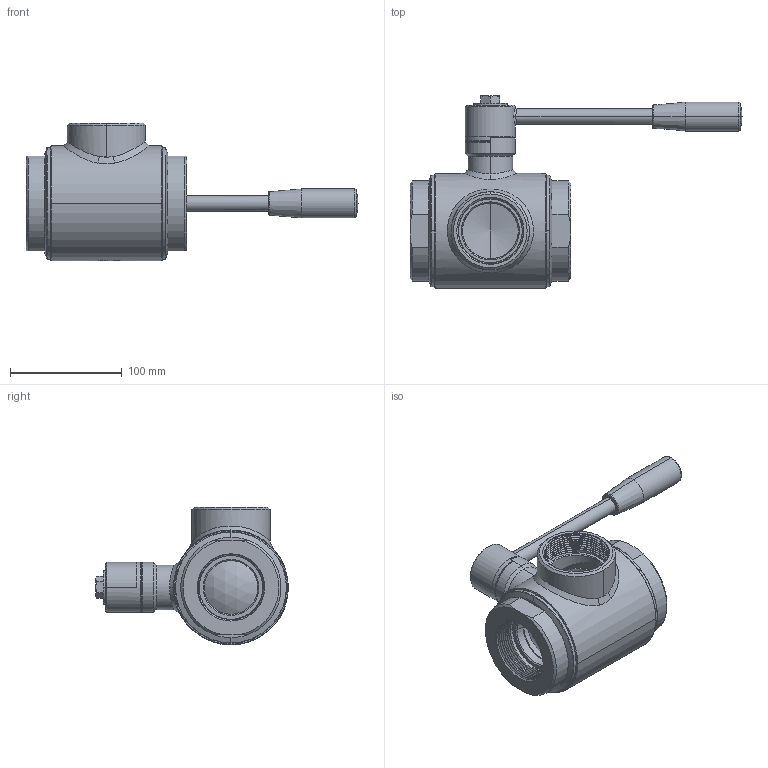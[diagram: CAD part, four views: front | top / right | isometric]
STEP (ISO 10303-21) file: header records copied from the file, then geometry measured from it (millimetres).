
FILE_DESCRIPTION((''),'2;1');
FILE_NAME('35010163810_SW0001','2025-04-01T11:27:06',('tecnico2'),('CDM Tecnoconsulting'),'CREO PARAMETRIC BY PTC INC, 2024063','CREO PARAMETRIC BY PTC INC, 2024063','');
FILE_SCHEMA(('CONFIG_CONTROL_DESIGN','SHAPE_APPEARANCE_LAYERS_GROUPS'));
Products named in the file (1): 35010163810_SW0001
Bounding box: 297.5 x 172.8 x 123.5 mm (x, y, z)
Volume: 850836.9 mm3; surface area: 185786.8 mm2
Topology: 1 solids, 1 shells, 829 faces, 2285 edges, 1456 vertices
Faces by surface type: plane 320, cylinder 221, cone 105, bspline 96, extrusion 56, torus 26, sphere 5
Entity records: 74949 total; most frequent: CARTESIAN_POINT 47906, ORIENTED_EDGE 4534, DIRECTION 3496, PRESENTATION_STYLE_ASSIGNMENT 2313, STYLED_ITEM 2268, CURVE_STYLE 2267, EDGE_CURVE 2267, VERTEX_POINT 1456
